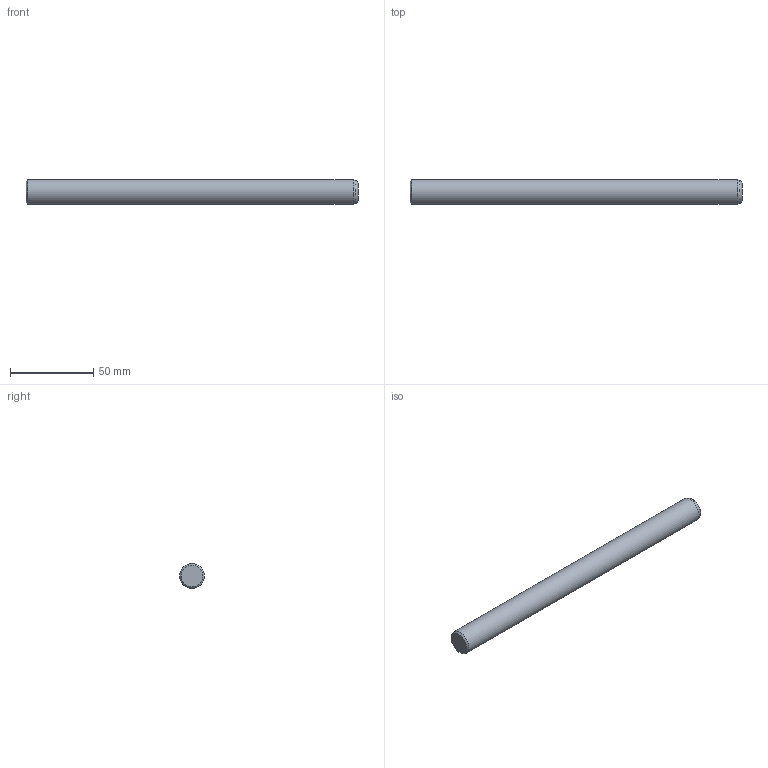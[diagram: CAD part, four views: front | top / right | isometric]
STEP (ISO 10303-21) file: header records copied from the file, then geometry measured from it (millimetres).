
FILE_DESCRIPTION(/* description */ ('Impex Ready, www.impex-ready.pl'),/* implementation_level */ '2;1');
FILE_NAME(/* name */ 'C:\Users\VIKKY\Nextcloud\SM\projekt 10 - części na stronę internetową\Pliki_3D_new\256 CIS Słup\256 CIS_STEP\CIS15200.ipt.step',/* time_stamp */ '2021-12-20T12:39:24+01:00',/* author */ ('SM'),/* organization */ (''),/* preprocessor_version */ 'ST-DEVELOPER v18.1',/* originating_system */ 'Autodesk Inventor 2021',/* authorisation */ '');
FILE_SCHEMA (('AUTOMOTIVE_DESIGN { 1 0 10303 214 3 1 1 }'));
Length unit declared in the file: millimetre
Products named in the file (1): CIS15200
Bounding box: 200 x 15 x 15 mm (x, y, z)
Volume: 35237.6 mm3; surface area: 9686.3 mm2
Topology: 1 solids, 1 shells, 6 faces, 12 edges, 8 vertices
Faces by surface type: cone 2, plane 2, torus 1, cylinder 1
Full cylindrical faces by diameter (mm): 15 x1
Entity records: 239 total; most frequent: DIRECTION 35, CARTESIAN_POINT 27, ORIENTED_EDGE 24, AXIS2_PLACEMENT_3D 16, EDGE_CURVE 12, CIRCLE 9, VERTEX_POINT 8, STYLED_ITEM 7
